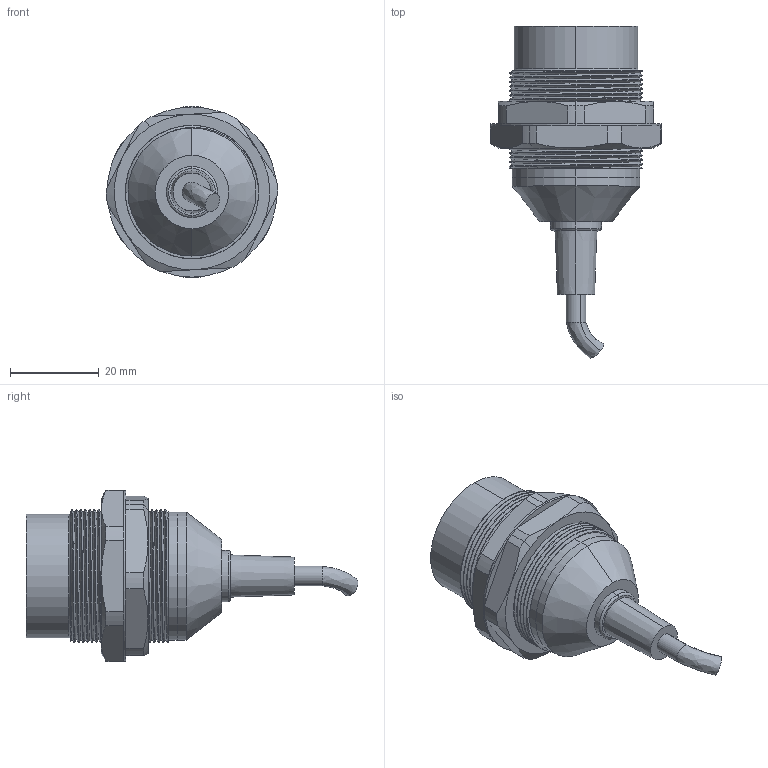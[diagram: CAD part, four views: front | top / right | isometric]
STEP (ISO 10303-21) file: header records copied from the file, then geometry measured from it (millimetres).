
FILE_DESCRIPTION (( 'STEP AP214' ), '1' );
FILE_NAME ('IPS30.STEP', '2022-06-24T07:15:58', ( '' ), ( '' ), 'SwSTEP 2.0', 'SolidWorks 2014', '' );
FILE_SCHEMA (( 'AUTOMOTIVE_DESIGN' ));
Length unit declared in the file: millimetre
Products named in the file (1): IPS30
Bounding box: 38.49 x 74.68 x 38.49 mm (x, y, z)
Surface area: 11326 mm2 (no closed solid volume)
Topology: 0 solids, 9 shells, 129 faces, 340 edges, 226 vertices
Faces by surface type: cylinder 73, plane 28, cone 22, bspline 4, torus 2
Entity records: 9021 total; most frequent: CARTESIAN_POINT 4630, ORIENTED_EDGE 648, DIRECTION 587, EDGE_CURVE 340, AXIS2_PLACEMENT_3D 239, VERTEX_POINT 226, EDGE_LOOP 142, UNCERTAINTY_MEASURE_WITH_UNIT 131
